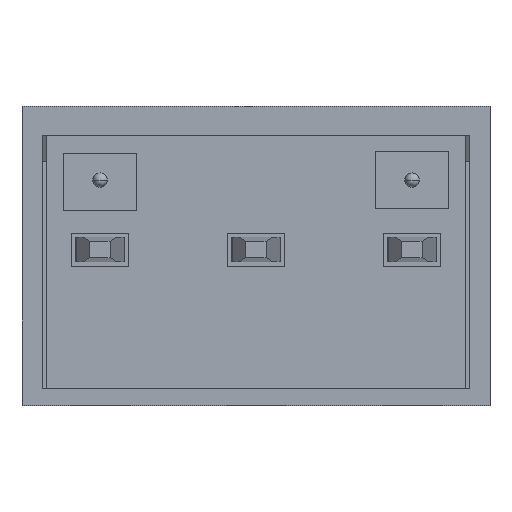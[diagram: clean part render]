
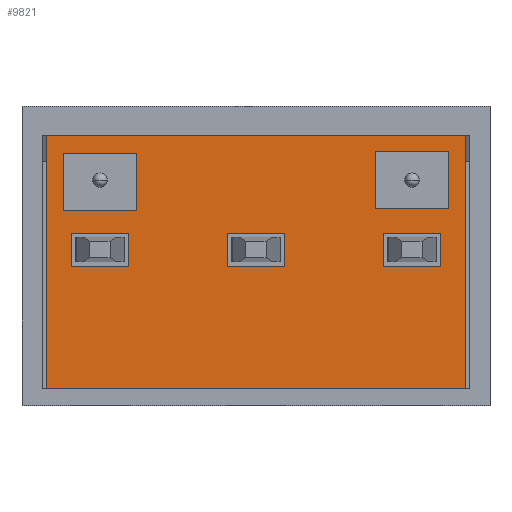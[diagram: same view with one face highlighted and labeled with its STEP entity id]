
A CAD part, top view. The second image highlights one B-rep face of the part: STEP entity #9821.
In plain terms, the highlighted planar face has unit normal (0, 0, 1).
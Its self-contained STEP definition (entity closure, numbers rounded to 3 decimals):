
#9121=DIRECTION('',(-1.,0.,0.));
#9122=VECTOR('',#9121,1.8);
#9123=CARTESIAN_POINT('',(10.425,4.8,-3.7));
#9124=LINE('',#9123,#9122);
#9129=DIRECTION('',(1.,0.,0.));
#9130=VECTOR('',#9129,10.22);
#9131=CARTESIAN_POINT('',(0.605,6.6,-3.7));
#9132=LINE('',#9131,#9130);
#9133=DIRECTION('',(0.,-1.,0.));
#9134=VECTOR('',#9133,6.2);
#9135=CARTESIAN_POINT('',(10.825,6.6,-3.7));
#9136=LINE('',#9135,#9134);
#9137=DIRECTION('',(-1.,0.,0.));
#9138=VECTOR('',#9137,10.22);
#9139=CARTESIAN_POINT('',(10.825,0.4,-3.7));
#9140=LINE('',#9139,#9138);
#9141=DIRECTION('',(0.,1.,0.));
#9142=VECTOR('',#9141,6.2);
#9143=CARTESIAN_POINT('',(0.605,0.4,-3.7));
#9144=LINE('',#9143,#9142);
#9145=DIRECTION('',(0.,-1.,0.));
#9146=VECTOR('',#9145,0.8);
#9147=CARTESIAN_POINT('',(8.825,4.2,-3.7));
#9148=LINE('',#9147,#9146);
#9149=DIRECTION('',(1.,0.,0.));
#9150=VECTOR('',#9149,1.4);
#9151=CARTESIAN_POINT('',(8.825,3.4,-3.7));
#9152=LINE('',#9151,#9150);
#9153=DIRECTION('',(0.,1.,0.));
#9154=VECTOR('',#9153,0.8);
#9155=CARTESIAN_POINT('',(10.225,3.4,-3.7));
#9156=LINE('',#9155,#9154);
#9157=DIRECTION('',(-1.,0.,0.));
#9158=VECTOR('',#9157,1.4);
#9159=CARTESIAN_POINT('',(10.225,4.2,-3.7));
#9160=LINE('',#9159,#9158);
#9161=DIRECTION('',(0.,-1.,0.));
#9162=VECTOR('',#9161,0.8);
#9163=CARTESIAN_POINT('',(5.015,4.2,-3.7));
#9164=LINE('',#9163,#9162);
#9165=DIRECTION('',(1.,0.,0.));
#9166=VECTOR('',#9165,1.4);
#9167=CARTESIAN_POINT('',(5.015,3.4,-3.7));
#9168=LINE('',#9167,#9166);
#9169=DIRECTION('',(0.,1.,0.));
#9170=VECTOR('',#9169,0.8);
#9171=CARTESIAN_POINT('',(6.415,3.4,-3.7));
#9172=LINE('',#9171,#9170);
#9173=DIRECTION('',(-1.,0.,0.));
#9174=VECTOR('',#9173,1.4);
#9175=CARTESIAN_POINT('',(6.415,4.2,-3.7));
#9176=LINE('',#9175,#9174);
#9177=DIRECTION('',(0.,-1.,0.));
#9178=VECTOR('',#9177,0.8);
#9179=CARTESIAN_POINT('',(1.205,4.2,-3.7));
#9180=LINE('',#9179,#9178);
#9181=DIRECTION('',(1.,0.,0.));
#9182=VECTOR('',#9181,1.4);
#9183=CARTESIAN_POINT('',(1.205,3.4,-3.7));
#9184=LINE('',#9183,#9182);
#9185=DIRECTION('',(0.,1.,0.));
#9186=VECTOR('',#9185,0.8);
#9187=CARTESIAN_POINT('',(2.605,3.4,-3.7));
#9188=LINE('',#9187,#9186);
#9189=DIRECTION('',(-1.,0.,0.));
#9190=VECTOR('',#9189,1.4);
#9191=CARTESIAN_POINT('',(2.605,4.2,-3.7));
#9192=LINE('',#9191,#9190);
#9193=DIRECTION('',(0.,-1.,0.));
#9194=VECTOR('',#9193,1.4);
#9195=CARTESIAN_POINT('',(1.005,6.15,-3.7));
#9196=LINE('',#9195,#9194);
#9197=DIRECTION('',(1.,0.,0.));
#9198=VECTOR('',#9197,1.8);
#9199=CARTESIAN_POINT('',(1.005,4.75,-3.7));
#9200=LINE('',#9199,#9198);
#9201=DIRECTION('',(0.,1.,0.));
#9202=VECTOR('',#9201,1.4);
#9203=CARTESIAN_POINT('',(2.805,4.75,-3.7));
#9204=LINE('',#9203,#9202);
#9205=DIRECTION('',(-1.,0.,0.));
#9206=VECTOR('',#9205,1.8);
#9207=CARTESIAN_POINT('',(2.805,6.15,-3.7));
#9208=LINE('',#9207,#9206);
#9481=DIRECTION('',(0.,-1.,0.));
#9482=VECTOR('',#9481,1.4);
#9483=CARTESIAN_POINT('',(10.425,6.2,-3.7));
#9484=LINE('',#9483,#9482);
#9515=DIRECTION('',(0.,1.,0.));
#9516=VECTOR('',#9515,1.4);
#9517=CARTESIAN_POINT('',(8.625,4.8,-3.7));
#9518=LINE('',#9517,#9516);
#9523=DIRECTION('',(1.,0.,0.));
#9524=VECTOR('',#9523,1.8);
#9525=CARTESIAN_POINT('',(8.625,6.2,-3.7));
#9526=LINE('',#9525,#9524);
#9593=CARTESIAN_POINT('',(10.225,3.4,-3.7));
#9594=CARTESIAN_POINT('',(10.225,4.2,-3.7));
#9595=VERTEX_POINT('',#9593);
#9596=VERTEX_POINT('',#9594);
#9601=CARTESIAN_POINT('',(0.605,6.6,-3.7));
#9602=CARTESIAN_POINT('',(10.825,6.6,-3.7));
#9603=VERTEX_POINT('',#9601);
#9604=VERTEX_POINT('',#9602);
#9605=CARTESIAN_POINT('',(10.825,0.4,-3.7));
#9606=VERTEX_POINT('',#9605);
#9607=CARTESIAN_POINT('',(0.605,0.4,-3.7));
#9608=VERTEX_POINT('',#9607);
#9609=CARTESIAN_POINT('',(10.425,6.2,-3.7));
#9610=CARTESIAN_POINT('',(10.425,4.8,-3.7));
#9611=VERTEX_POINT('',#9609);
#9612=VERTEX_POINT('',#9610);
#9613=CARTESIAN_POINT('',(8.625,6.2,-3.7));
#9614=VERTEX_POINT('',#9613);
#9615=CARTESIAN_POINT('',(8.625,4.8,-3.7));
#9616=VERTEX_POINT('',#9615);
#9617=CARTESIAN_POINT('',(8.825,4.2,-3.7));
#9618=CARTESIAN_POINT('',(8.825,3.4,-3.7));
#9619=VERTEX_POINT('',#9617);
#9620=VERTEX_POINT('',#9618);
#9621=CARTESIAN_POINT('',(5.015,4.2,-3.7));
#9622=CARTESIAN_POINT('',(5.015,3.4,-3.7));
#9623=VERTEX_POINT('',#9621);
#9624=VERTEX_POINT('',#9622);
#9625=CARTESIAN_POINT('',(6.415,3.4,-3.7));
#9626=VERTEX_POINT('',#9625);
#9627=CARTESIAN_POINT('',(6.415,4.2,-3.7));
#9628=VERTEX_POINT('',#9627);
#9629=CARTESIAN_POINT('',(1.205,4.2,-3.7));
#9630=CARTESIAN_POINT('',(1.205,3.4,-3.7));
#9631=VERTEX_POINT('',#9629);
#9632=VERTEX_POINT('',#9630);
#9633=CARTESIAN_POINT('',(2.605,3.4,-3.7));
#9634=VERTEX_POINT('',#9633);
#9635=CARTESIAN_POINT('',(2.605,4.2,-3.7));
#9636=VERTEX_POINT('',#9635);
#9637=CARTESIAN_POINT('',(1.005,6.15,-3.7));
#9638=CARTESIAN_POINT('',(1.005,4.75,-3.7));
#9639=VERTEX_POINT('',#9637);
#9640=VERTEX_POINT('',#9638);
#9641=CARTESIAN_POINT('',(2.805,4.75,-3.7));
#9642=VERTEX_POINT('',#9641);
#9643=CARTESIAN_POINT('',(2.805,6.15,-3.7));
#9644=VERTEX_POINT('',#9643);
#9757=CARTESIAN_POINT('',(11.43,3.5,-3.7));
#9758=DIRECTION('',(0.,0.,-1.));
#9759=DIRECTION('',(1.,0.,0.));
#9760=AXIS2_PLACEMENT_3D('',#9757,#9758,#9759);
#9761=PLANE('',#9760);
#9763=ORIENTED_EDGE('',*,*,#9762,.T.);
#9765=ORIENTED_EDGE('',*,*,#9764,.T.);
#9767=ORIENTED_EDGE('',*,*,#9766,.T.);
#9769=ORIENTED_EDGE('',*,*,#9768,.T.);
#9770=EDGE_LOOP('',(#9763,#9765,#9767,#9769));
#9771=FACE_OUTER_BOUND('',#9770,.F.);
#9773=ORIENTED_EDGE('',*,*,#9772,.F.);
#9775=ORIENTED_EDGE('',*,*,#9774,.F.);
#9777=ORIENTED_EDGE('',*,*,#9776,.F.);
#9778=ORIENTED_EDGE('',*,*,#9746,.F.);
#9779=EDGE_LOOP('',(#9773,#9775,#9777,#9778));
#9780=FACE_BOUND('',#9779,.F.);
#9782=ORIENTED_EDGE('',*,*,#9781,.T.);
#9784=ORIENTED_EDGE('',*,*,#9783,.T.);
#9786=ORIENTED_EDGE('',*,*,#9785,.T.);
#9788=ORIENTED_EDGE('',*,*,#9787,.T.);
#9789=EDGE_LOOP('',(#9782,#9784,#9786,#9788));
#9790=FACE_BOUND('',#9789,.F.);
#9792=ORIENTED_EDGE('',*,*,#9791,.T.);
#9794=ORIENTED_EDGE('',*,*,#9793,.T.);
#9796=ORIENTED_EDGE('',*,*,#9795,.T.);
#9798=ORIENTED_EDGE('',*,*,#9797,.T.);
#9799=EDGE_LOOP('',(#9792,#9794,#9796,#9798));
#9800=FACE_BOUND('',#9799,.F.);
#9802=ORIENTED_EDGE('',*,*,#9801,.T.);
#9804=ORIENTED_EDGE('',*,*,#9803,.T.);
#9806=ORIENTED_EDGE('',*,*,#9805,.T.);
#9808=ORIENTED_EDGE('',*,*,#9807,.T.);
#9809=EDGE_LOOP('',(#9802,#9804,#9806,#9808));
#9810=FACE_BOUND('',#9809,.F.);
#9812=ORIENTED_EDGE('',*,*,#9811,.T.);
#9814=ORIENTED_EDGE('',*,*,#9813,.T.);
#9816=ORIENTED_EDGE('',*,*,#9815,.T.);
#9818=ORIENTED_EDGE('',*,*,#9817,.T.);
#9819=EDGE_LOOP('',(#9812,#9814,#9816,#9818));
#9820=FACE_BOUND('',#9819,.F.);
#9821=ADVANCED_FACE('',(#9771,#9780,#9790,#9800,#9810,#9820),#9761,.F.);
#9746=EDGE_CURVE('',#9612,#9616,#9124,.T.);
#9762=EDGE_CURVE('',#9603,#9604,#9132,.T.);
#9764=EDGE_CURVE('',#9604,#9606,#9136,.T.);
#9766=EDGE_CURVE('',#9606,#9608,#9140,.T.);
#9768=EDGE_CURVE('',#9608,#9603,#9144,.T.);
#9772=EDGE_CURVE('',#9611,#9612,#9484,.T.);
#9774=EDGE_CURVE('',#9614,#9611,#9526,.T.);
#9776=EDGE_CURVE('',#9616,#9614,#9518,.T.);
#9781=EDGE_CURVE('',#9619,#9620,#9148,.T.);
#9783=EDGE_CURVE('',#9620,#9595,#9152,.T.);
#9785=EDGE_CURVE('',#9595,#9596,#9156,.T.);
#9787=EDGE_CURVE('',#9596,#9619,#9160,.T.);
#9791=EDGE_CURVE('',#9623,#9624,#9164,.T.);
#9793=EDGE_CURVE('',#9624,#9626,#9168,.T.);
#9795=EDGE_CURVE('',#9626,#9628,#9172,.T.);
#9797=EDGE_CURVE('',#9628,#9623,#9176,.T.);
#9801=EDGE_CURVE('',#9631,#9632,#9180,.T.);
#9803=EDGE_CURVE('',#9632,#9634,#9184,.T.);
#9805=EDGE_CURVE('',#9634,#9636,#9188,.T.);
#9807=EDGE_CURVE('',#9636,#9631,#9192,.T.);
#9811=EDGE_CURVE('',#9639,#9640,#9196,.T.);
#9813=EDGE_CURVE('',#9640,#9642,#9200,.T.);
#9815=EDGE_CURVE('',#9642,#9644,#9204,.T.);
#9817=EDGE_CURVE('',#9644,#9639,#9208,.T.);
